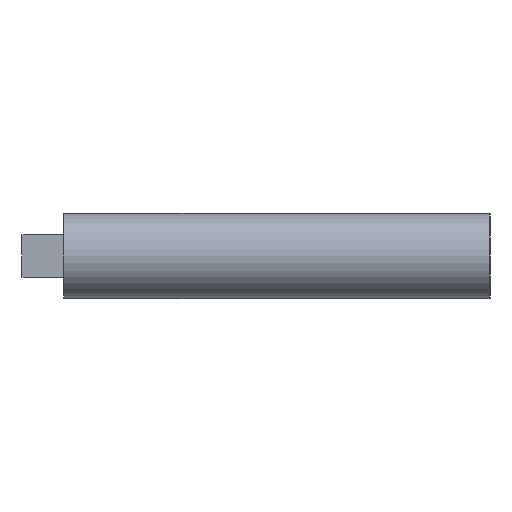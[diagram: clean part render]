
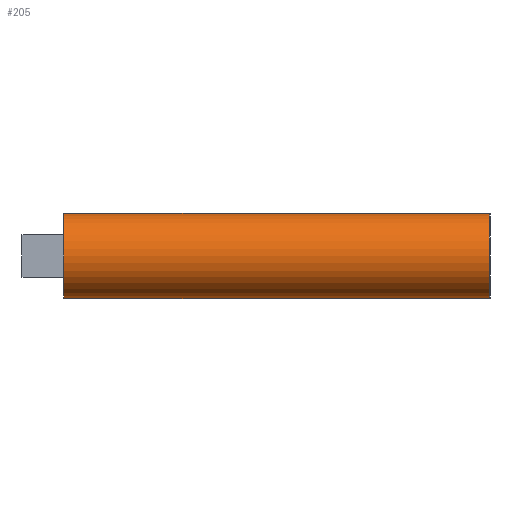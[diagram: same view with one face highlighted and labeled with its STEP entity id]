
A CAD part, front view. The second image highlights one B-rep face of the part: STEP entity #205.
In plain terms, the highlighted cylindrical face has radius 2 mm (diameter 4 mm), a full revolution.
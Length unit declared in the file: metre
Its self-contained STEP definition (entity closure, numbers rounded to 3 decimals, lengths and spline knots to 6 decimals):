
#109=ORIENTED_EDGE('',*,*,#137,.F.);
#110=ORIENTED_EDGE('',*,*,#136,.T.);
#111=ORIENTED_EDGE('',*,*,#134,.T.);
#134=EDGE_CURVE('',#151,#149,#157,.T.);
#136=EDGE_CURVE('',#149,#151,#158,.T.);
#137=EDGE_CURVE('',#154,#154,#159,.T.);
#149=VERTEX_POINT('',#326);
#151=VERTEX_POINT('',#334);
#154=VERTEX_POINT('',#350);
#157=CIRCLE('',#231,0.002);
#158=CIRCLE('',#234,0.002);
#159=CIRCLE('',#236,0.002);
#173=EDGE_LOOP('',(#109));
#174=EDGE_LOOP('',(#110,#111));
#189=FACE_BOUND('',#173,.T.);
#190=FACE_BOUND('',#174,.T.);
#193=CYLINDRICAL_SURFACE('',#235,0.002);
#205=ADVANCED_FACE('',(#189,#190),#193,.T.);
#231=AXIS2_PLACEMENT_3D('',#343,#281,#282);
#234=AXIS2_PLACEMENT_3D('',#347,#288,#289);
#235=AXIS2_PLACEMENT_3D('',#348,#290,#291);
#236=AXIS2_PLACEMENT_3D('',#349,#292,#293);
#281=DIRECTION('',(1.,0.,0.));
#282=DIRECTION('',(0.,1.,0.));
#288=DIRECTION('',(1.,0.,0.));
#289=DIRECTION('',(0.,1.,0.));
#290=DIRECTION('',(-1.,0.,0.));
#291=DIRECTION('',(0.,-1.,0.));
#292=DIRECTION('',(1.,0.,0.));
#293=DIRECTION('',(0.,1.,0.));
#326=CARTESIAN_POINT('',(-0.000032,-0.097533,0.065484));
#334=CARTESIAN_POINT('',(-0.000032,-0.097533,0.063484));
#343=CARTESIAN_POINT('',(-0.000032,-0.099266,0.064484));
#347=CARTESIAN_POINT('',(-0.000032,-0.099266,0.064484));
#348=CARTESIAN_POINT('',(0.019968,-0.099266,0.064484));
#349=CARTESIAN_POINT('',(0.019968,-0.099266,0.064484));
#350=CARTESIAN_POINT('',(0.019968,-0.097266,0.064484));
